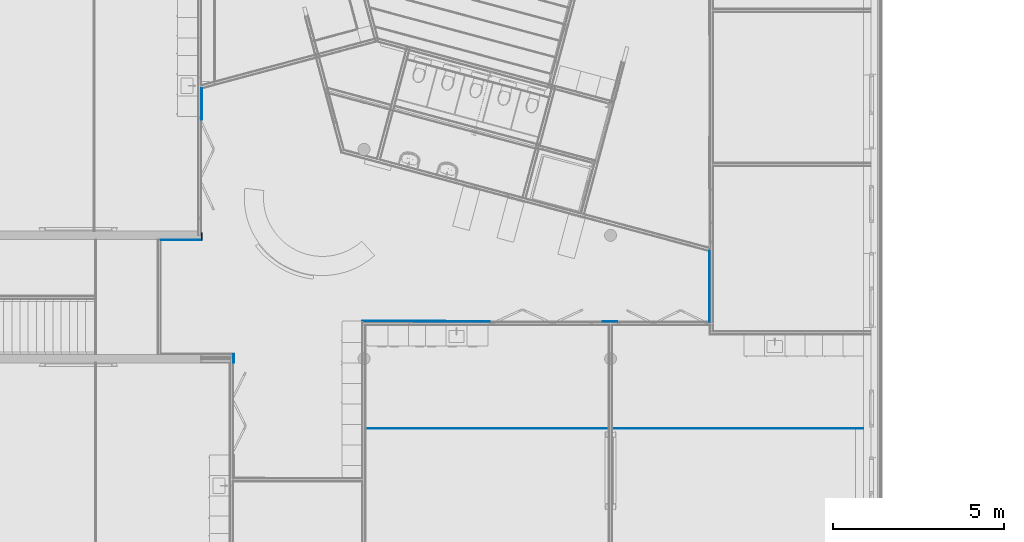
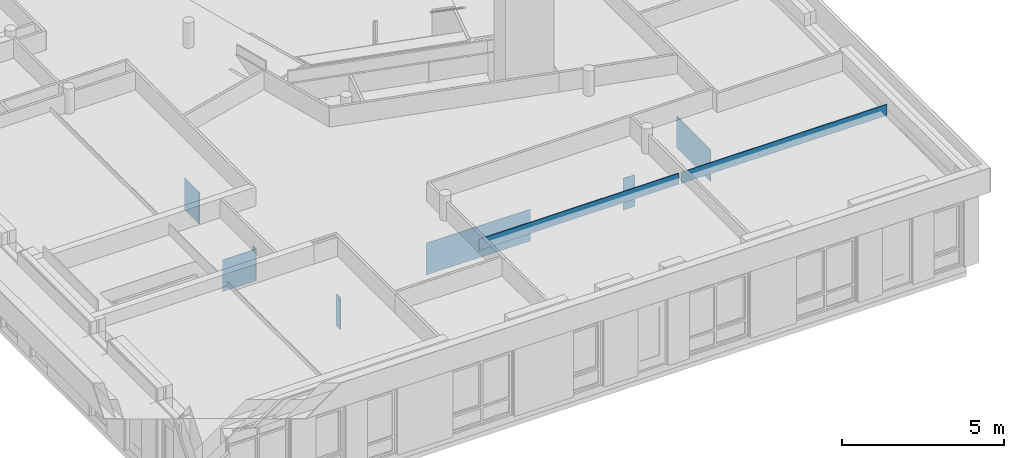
# One storey, part 12 of 167: 8 walls.
"""IFC2X3 building model written with IfcOpenShell, lengths in millimetres."""

from ifc_helpers import new_model, entity, si_unit, converted_unit, derived_unit, money_unit, direction, frame, origin_with_axes, place, context, subcontext, project, spatial, faceted_brep, material, type_object, element, save


model = new_model("IFC2X3")

# Units and contexts
model_context = context("Model", 3, precision=0.01, world=origin_with_axes(), true_north=direction((0.0, 1.0)))
plan_context = context("Plan", 3, precision=0.01, world=origin_with_axes(), true_north=direction((0.0, 1.0)))
body_context = subcontext(model_context, "Body", "Model", "MODEL_VIEW")
ifc_project = project(units=[si_unit("LENGTHUNIT", "METRE", prefix="MILLI"), si_unit("AREAUNIT", "SQUARE_METRE"), si_unit("VOLUMEUNIT", "CUBIC_METRE"), converted_unit("PLANEANGLEUNIT", "DEGREE", entity("IfcPlaneAngleMeasure", 0.0174532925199), si_unit("PLANEANGLEUNIT", "RADIAN"), dimensions=[0, 0, 0, 0, 0, 0, 0]), si_unit("SOLIDANGLEUNIT", "STERADIAN"), money_unit("EUR"), converted_unit("TIMEUNIT", "Year", entity("IfcTimeMeasure", 31556926.0), si_unit("TIMEUNIT", "SECOND"), dimensions=[0, 0, 1, 0, 0, 0, 0]), si_unit("MASSUNIT", "GRAM", prefix="KILO"), si_unit("THERMODYNAMICTEMPERATUREUNIT", "DEGREE_CELSIUS"), si_unit("LUMINOUSINTENSITYUNIT", "LUMEN"), si_unit("ENERGYUNIT", "JOULE", prefix="MEGA"), derived_unit("THERMALCONDUCTANCEUNIT", [(si_unit("POWERUNIT", "WATT"), 1), (si_unit("LENGTHUNIT", "METRE"), -1), (si_unit("THERMODYNAMICTEMPERATUREUNIT", "KELVIN"), -1)]), derived_unit("SPECIFICHEATCAPACITYUNIT", [(si_unit("ENERGYUNIT", "JOULE"), 1), (si_unit("MASSUNIT", "GRAM", prefix="KILO"), -1), (si_unit("THERMODYNAMICTEMPERATUREUNIT", "KELVIN"), -1)]), derived_unit("MASSDENSITYUNIT", [(si_unit("MASSUNIT", "GRAM", prefix="KILO"), 1), (si_unit("VOLUMEUNIT", "CUBIC_METRE"), -1)])], contexts=[model_context, plan_context])

# Site, building, storey
site_placement = place(None, origin_with_axes())
site = spatial("IfcSite", under=ifc_project, at=site_placement, Name="Site", CompositionType="ELEMENT")
building_placement = place(site_placement, origin_with_axes())
building = spatial("IfcBuilding", under=site, at=building_placement, Name="Naam gebouw", CompositionType="ELEMENT")
storey_placement = place(building_placement, origin_with_axes())
storey = spatial("IfcBuildingStorey", under=building, at=storey_placement, Name="Begane grond", CompositionType="ELEMENT", Elevation=0.0)

# Walls
ifc_material = material(Name="Hout - Spaanplaat")
wall_type_1 = type_object("IfcWallType", Name="Hout - Spaanplaat 25", PredefinedType="NOTDEFINED")
wall_1_placement = place(storey_placement, frame((29200.0, 5173.34783859, 2810.0), z_axis=(0.0, 0.0, 1.0), x_axis=(-1.0, 0.0, 0.0)))
element("IfcWall", 1, at=wall_1_placement, inside=storey, type_object=wall_type_1, material=ifc_material, Name="21_Wand_Wand-x", context=body_context, shape_type="Brep", body=[
    faceted_brep([(7562.5, 25.0, 419.999998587), (214.0, 25.0, 420.0), (214.0, 0.0, 420.0), (7562.5, 0.0, 419.999998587), (214.0, 25.0, 0.0), (7562.5, 25.0, 0.0), (214.0, 0.0, 0.0), (7562.5, 0.0, 0.0)], [[[0, 1, 2, 3]], [[4, 1, 0, 5]], [[6, 2, 1, 4]], [[3, 2, 6, 7]], [[5, 0, 3, 7]], [[7, 6, 4, 5]]]),
    faceted_brep([(7637.5, 25.0, 419.999998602), (7637.5, 0.0, 419.999998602), (14762.5, 0.0, 419.999999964), (14762.5, 25.0, 419.999999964), (7637.5, 0.0, 0.0), (7637.5, 25.0, 0.0), (14762.5, 0.0, 0.0), (14762.5, 25.0, 0.0)], [[[0, 1, 2, 3]], [[4, 1, 0, 5]], [[1, 4, 6, 2]], [[3, 2, 6, 7]], [[5, 0, 3, 7]], [[4, 5, 7, 6]]]),
])
wall_type_2 = type_object("IfcWallType", Name="Hout - Spaanplaat 20", PredefinedType="NOTDEFINED")
wall_2_placement = place(storey_placement, frame((9650.0, 15134.5993022, 0.0), z_axis=(0.0, 0.0, 1.0), x_axis=(0.0, -1.0, 0.0)))
element("IfcWall", 2, at=wall_2_placement, inside=storey, type_object=wall_type_2, material=ifc_material, Name="21_Wand_Wand-x", context=body_context, shape_type="Brep", body=[
    faceted_brep([(33.4638729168, 20.0, 0.0), (959.599302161, 20.0, 0.0), (959.599302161, 0.0, 0.0), (38.8228567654, 0.0, 0.0), (33.4638729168, 20.0, 1200.0), (959.599302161, 20.0, 1200.0), (959.599302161, 0.0, 1200.0), (38.8228567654, 0.0, 1200.0)], [[[0, 1, 2, 3]], [[4, 5, 1, 0]], [[2, 1, 5, 6]], [[3, 2, 6, 7]], [[4, 0, 3, 7]], [[7, 6, 5, 4]]]),
])
wall_3_placement = place(storey_placement, frame((9650.0, 10875.0, 0.0), z_axis=(0.0, 0.0, 1.0), x_axis=(0.0, -1.0, 0.0)))
element("IfcWall", 3, at=wall_3_placement, inside=storey, type_object=wall_type_2, material=ifc_material, Name="21_Wand_Wand-x", context=body_context, shape_type="Brep", body=[
    faceted_brep([(220.0, 20.0, 0.0), (220.0, 0.0, 0.0), (0.0, 0.0, 0.0), (0.0, 20.0, 0.0), (220.0, 20.0, 1200.0), (220.0, 0.0, 1200.0), (0.0, 0.0, 1200.0), (0.0, 20.0, 1200.0)], [[[0, 1, 2, 3]], [[1, 0, 4, 5]], [[1, 5, 6, 2]], [[7, 3, 2, 6]], [[4, 0, 3, 7]], [[5, 4, 7, 6]]]),
])
wall_4_placement = place(storey_placement, frame((9650.0, 10675.0, 0.0), z_axis=(0.0, 0.0, 1.0), x_axis=(-1.0, 0.0, 0.0)))
element("IfcWall", 4, at=wall_4_placement, inside=storey, type_object=wall_type_2, material=ifc_material, Name="21_Wand_Wand-x", context=body_context, shape_type="Brep", body=[
    faceted_brep([(1193.24784078, 17.5, 1200.0), (1180.74784078, 20.0, 1200.0), (0.0, 20.0, 1200.0), (0.0, 0.0, 1200.0), (1193.24784078, 0.0, 1200.0), (1193.24784078, 17.5, 0.0), (1180.74784078, 20.0, 0.0), (0.0, 20.0, 0.0), (0.0, 0.0, 0.0), (1193.24784078, 0.0, 0.0)], [[[0, 1, 2, 3, 4]], [[1, 0, 5, 6]], [[1, 6, 7, 2]], [[3, 2, 7, 8]], [[8, 9, 4, 3]], [[5, 0, 4, 9]], [[6, 5, 9, 8, 7]]]),
])
wall_5_placement = place(storey_placement, frame((10581.8272344, 7325.0, 0.0), z_axis=(0.0, 0.0, 1.0), x_axis=(0.0, -1.0, 0.0)))
element("IfcWall", 5, at=wall_5_placement, inside=storey, type_object=wall_type_2, material=ifc_material, Name="21_Wand_Wand-x", context=body_context, shape_type="Brep", body=[
    faceted_brep([(0.0, 20.0, 0.0), (250.0, 20.0, 0.0), (250.0, 0.0, 0.0), (0.0, 0.0, 0.0), (0.0, 20.0, 1200.0), (250.0, 20.0, 1200.0), (250.0, 0.0, 1200.0), (0.0, 0.0, 1200.0)], [[[0, 1, 2, 3]], [[4, 5, 1, 0]], [[2, 1, 5, 6]], [[3, 2, 6, 7]], [[4, 0, 3, 7]], [[7, 6, 5, 4]]]),
])
wall_6_placement = place(storey_placement, frame((14350.0, 8293.34783859, 0.0), z_axis=(0.0, 0.0, 1.0), x_axis=(0.999985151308, -0.00544951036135, 0.0)))
element("IfcWall", 6, at=wall_6_placement, inside=storey, type_object=wall_type_2, material=ifc_material, Name="21_Wand_Wand-x", context=body_context, shape_type="Brep", body=[
    faceted_brep([(0.0, 20.0, 0.0), (3720.05375307, 20.0, 0.0), (3720.05375307, 0.0, 0.0), (0.0, 0.0, 0.0), (0.0, 20.0, 1200.0), (3720.05375307, 20.0, 1200.0), (3720.05375307, 0.0, 1200.0), (0.0, 0.0, 1200.0)], [[[0, 1, 2, 3]], [[4, 5, 1, 0]], [[2, 1, 5, 6]], [[3, 2, 6, 7]], [[4, 0, 3, 7]], [[7, 6, 5, 4]]]),
])
wall_7_placement = place(storey_placement, frame((21370.0, 8273.34783859, 0.0), z_axis=(0.0, 0.0, 1.0), x_axis=(1.0, 0.0, 0.0)))
element("IfcWall", 7, at=wall_7_placement, inside=storey, type_object=wall_type_2, material=ifc_material, Name="21_Wand_Wand-x", context=body_context, shape_type="Brep", body=[
    faceted_brep([(0.0, 20.0, 0.0), (430.0, 20.0, 0.0), (430.0, 0.0, 0.0), (0.0, 0.0, 0.0), (0.0, 20.0, 1200.0), (430.0, 20.0, 1200.0), (430.0, 0.0, 1200.0), (0.0, 0.0, 1200.0)], [[[0, 1, 2, 3]], [[4, 5, 1, 0]], [[2, 1, 5, 6]], [[3, 2, 6, 7]], [[4, 0, 3, 7]], [[7, 6, 5, 4]]]),
])
wall_8_placement = place(storey_placement, frame((24500.0, 8223.34783859, 0.0), z_axis=(0.0, 0.0, 1.0), x_axis=(0.0, 1.0, 0.0)))
element("IfcWall", 8, at=wall_8_placement, inside=storey, type_object=wall_type_2, material=ifc_material, Name="21_Wand_Wand-x", context=body_context, shape_type="Brep", body=[
    faceted_brep([(50.0, 20.0, 1200.0), (50.0, 0.0, 1200.0), (2119.49575134, 0.0, 1200.0), (2124.85473519, 20.0, 1200.0), (50.0, 0.0, 0.0), (50.0, 20.0, 0.0), (2119.49575134, 0.0, 0.0), (2124.85473519, 20.0, 0.0)], [[[0, 1, 2, 3]], [[4, 1, 0, 5]], [[1, 4, 6, 2]], [[6, 7, 3, 2]], [[5, 0, 3, 7]], [[4, 5, 7, 6]]]),
])

save(model, "model.ifc")
